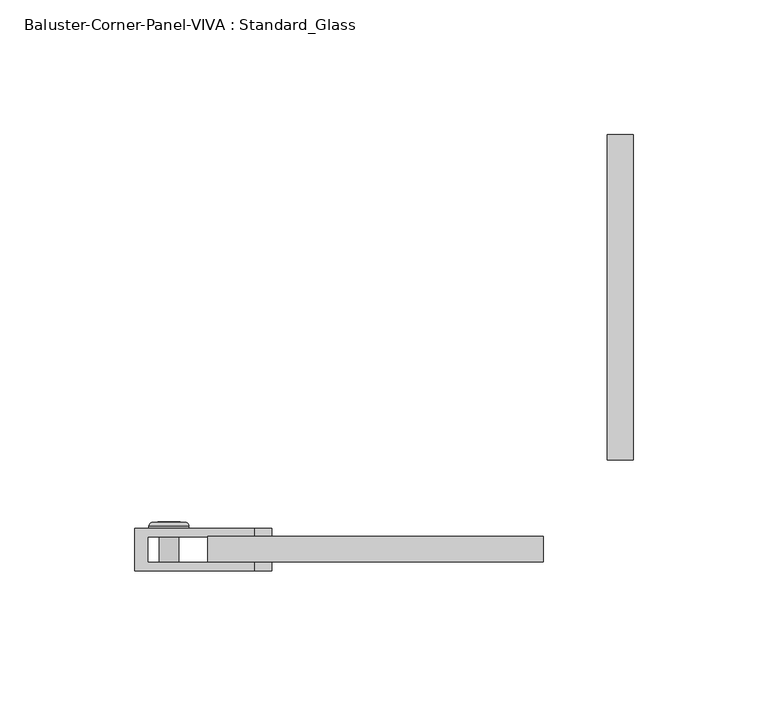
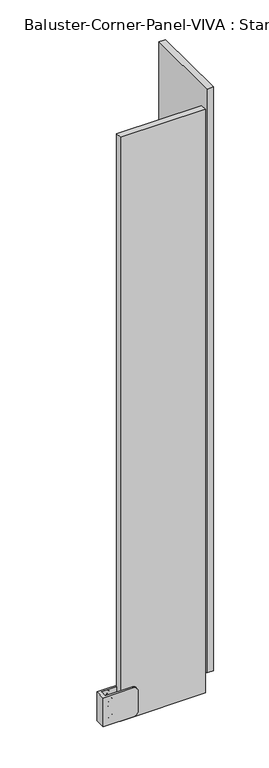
"""IFC4 building model written with IfcOpenShell, lengths in millimetres: railing geometry, Baluster-Corner-Panel-VIVA : Standard_Glass."""

import ifcopenshell
import ifcopenshell.guid

model = None  # the IFC model being written
_history = None  # IfcOwnerHistory: only IFC2X3 demands one
_inside = {}  # id of a spatial element -> (the spatial element, [elements in it])
_under = {}  # id of a project, library or spatial element -> (it, [spatial elements below it])
_declared = {}  # id of a project -> (the project, [libraries it declares])
_typed = {}  # id of a type object -> (the type object, [elements of that type])
_made_of = {}  # id of a material, layer set ... -> (it, [elements and type objects made of it])


def new_model(schema):
    """Start an empty IFC model of exactly this schema.

    Asked for "IFC4X3", IfcOpenShell would pick the latest addendum, in which some entities
    have other attributes; the version numbers below select the first issue.
    IFC2X3 requires an IfcOwnerHistory on every rooted entity: one is made here for all.
    """
    global model, _history
    if schema == "IFC4X3":
        model = ifcopenshell.file(schema_version=(4, 3, 0, 0))
    else:
        model = ifcopenshell.file(schema=schema)
    _inside.clear()
    _under.clear()
    _declared.clear()
    _typed.clear()
    _made_of.clear()
    _history = None
    if model.schema == "IFC2X3":
        org = make("IfcOrganization", Name="unknown")
        user = make(
            "IfcPersonAndOrganization",
            ThePerson=make("IfcPerson", FamilyName="unknown"),
            TheOrganization=org,
        )
        app = make(
            "IfcApplication",
            ApplicationDeveloper=org,
            Version="unknown",
            ApplicationFullName="unknown",
            ApplicationIdentifier="unknown",
        )
        _history = make(
            "IfcOwnerHistory",
            OwningUser=user,
            OwningApplication=app,
            ChangeAction="ADDED",
            CreationDate=0,
        )
    return model


def make(cls, **values):
    """One entity of the class cls with the attributes given. An attribute that is None is left unset."""
    return model.create_entity(
        cls, **{name: value for name, value in values.items() if value is not None}
    )


def rooted(cls, **values):
    """An entity with a GlobalId (a new one), such as an element, a storey or a relation."""
    return make(cls, GlobalId=ifcopenshell.guid.new(), OwnerHistory=_history, **values)


def si_unit(unit_type, name, prefix=None):
    """IfcSIUnit, for example si_unit("LENGTHUNIT", "METRE", prefix="MILLI")."""
    return make("IfcSIUnit", UnitType=unit_type, Prefix=prefix, Name=name)


def assignment(units):
    """IfcUnitAssignment: the units of a project."""
    return None if units is None else make("IfcUnitAssignment", Units=units)


def point(xyz):
    """IfcCartesianPoint."""
    return None if xyz is None else make("IfcCartesianPoint", Coordinates=xyz)


def direction(xyz):
    """IfcDirection."""
    return None if xyz is None else make("IfcDirection", DirectionRatios=xyz)


def frame(location, z_axis=None, x_axis=None):
    """IfcAxis2Placement3D, a coordinate frame: its origin and axes. An axis left out is left unset."""
    return make(
        "IfcAxis2Placement3D",
        Location=point(location),
        Axis=direction(z_axis),
        RefDirection=direction(x_axis),
    )


def origin():
    """The frame at (0, 0, 0) with its axes left unset."""
    return frame((0.0, 0.0, 0.0))


def place(relative_to, where):
    """IfcLocalPlacement: puts the frame where relative to a parent placement (None: the world)."""
    return make(
        "IfcLocalPlacement", PlacementRelTo=relative_to, RelativePlacement=where
    )


def context(
    kind, dimensions, precision=None, world=None, true_north=None, identifier=None
):
    """IfcGeometricRepresentationContext, for example the 3D "Model" context."""
    return make(
        "IfcGeometricRepresentationContext",
        ContextIdentifier=identifier,
        ContextType=kind,
        CoordinateSpaceDimension=dimensions,
        Precision=precision,
        WorldCoordinateSystem=world,
        TrueNorth=true_north,
    )


def project(units=None, contexts=None):
    """IfcProject with its units and contexts."""
    return rooted(
        "IfcProject",
        Name="project",
        RepresentationContexts=contexts,
        UnitsInContext=assignment(units),
    )


def spatial(cls, under=None, at=None, **own):
    """A site, building, storey or space (cls), placed at a placement, below another one or the project."""
    s = rooted(cls, ObjectPlacement=at, **own)
    if under is not None:
        _under.setdefault(under.id(), (under, []))[1].append(s)
    return s


def polyline(points):
    """IfcPolyline through the points."""
    return make("IfcPolyline", Points=[point(p) for p in points])


def circle_curve(where, radius):
    """IfcCircle in the frame where."""
    return make("IfcCircle", Position=where, Radius=radius)


def ellipse_curve(where, semi_axis1, semi_axis2):
    """IfcEllipse in the frame where."""
    return make(
        "IfcEllipse", Position=where, SemiAxis1=semi_axis1, SemiAxis2=semi_axis2
    )


def trimmed(basis, trim1, trim2, sense, master):
    """IfcTrimmedCurve: the piece of a basis curve between two trims."""
    return make(
        "IfcTrimmedCurve",
        BasisCurve=basis,
        Trim1=trim1,
        Trim2=trim2,
        SenseAgreement=sense,
        MasterRepresentation=master,
    )


def outline(outer, holes=None, kind="AREA"):
    """IfcArbitraryClosedProfileDef: a profile drawn as a closed curve; with holes, ...WithVoids."""
    if holes is None:
        return make("IfcArbitraryClosedProfileDef", ProfileType=kind, OuterCurve=outer)
    return make(
        "IfcArbitraryProfileDefWithVoids",
        ProfileType=kind,
        OuterCurve=outer,
        InnerCurves=holes,
    )


def extrude(swept, where, along, depth):
    """IfcExtrudedAreaSolid: the profile swept, set in the frame where, extruded along a direction by depth."""
    return make(
        "IfcExtrudedAreaSolid",
        SweptArea=swept,
        Position=where,
        ExtrudedDirection=direction(along),
        Depth=depth,
    )


def shape(context_of_items, identifier, shape_type, items):
    """IfcShapeRepresentation: the items that make up one representation, for example the "Body"."""
    return make(
        "IfcShapeRepresentation",
        ContextOfItems=context_of_items,
        RepresentationIdentifier=identifier,
        RepresentationType=shape_type,
        Items=items,
    )


def source(mapping_origin, context_of_items, identifier, shape_type, items):
    """IfcRepresentationMap: a shape defined once, which mapped items show again and again."""
    return make(
        "IfcRepresentationMap",
        MappingOrigin=mapping_origin,
        MappedRepresentation=shape(context_of_items, identifier, shape_type, items),
    )


def transform(
    local_origin,
    x_axis=None,
    y_axis=None,
    z_axis=None,
    scale=None,
    scale2=None,
    scale3=None,
    uniform=True,
):
    """IfcCartesianTransformationOperator3D, or its non-uniform kind. x_axis, y_axis, z_axis: its Axis1, 2, 3."""
    if uniform:
        return make(
            "IfcCartesianTransformationOperator3D",
            Axis1=direction(x_axis),
            Axis2=direction(y_axis),
            LocalOrigin=point(local_origin),
            Scale=scale,
            Axis3=direction(z_axis),
        )
    return make(
        "IfcCartesianTransformationOperator3DnonUniform",
        Axis1=direction(x_axis),
        Axis2=direction(y_axis),
        LocalOrigin=point(local_origin),
        Scale=scale,
        Axis3=direction(z_axis),
        Scale2=scale2,
        Scale3=scale3,
    )


def mapped(mapping_source, mapping_target):
    """IfcMappedItem: shows the shape of a source again, moved by a transform."""
    return make(
        "IfcMappedItem", MappingSource=mapping_source, MappingTarget=mapping_target
    )


def made_of(thing, what):
    """Note that an element or type object is made of a material, layer set ...; save() writes the relation."""
    if what is not None:
        _made_of.setdefault(what.id(), (what, []))[1].append(thing)
    return thing


def element(
    cls,
    number,
    at=None,
    inside=None,
    cuts=None,
    type_object=None,
    material=None,
    context=None,
    identifier="Body",
    shape_type=None,
    held_by="IfcProductDefinitionShape",
    body=None,
    shapes=None,
    **own,
):
    """One element of the class cls, such as IfcWall. Its Tag is "e" and its number.

    at: its placement. inside: the storey or other place that contains it. cuts: it is an
    opening in that element (IfcRelVoidsElement). A single representation is given by context,
    identifier, shape_type and body (its items); several are given by shapes. held_by: the class
    of the entity that holds the representations. save() writes the other relations.
    """
    e = rooted(cls, Tag="e%d" % number, ObjectPlacement=at, **own)
    if body is not None:
        shapes = [shape(context, identifier, shape_type, body)]
    if shapes is not None:
        e.Representation = make(held_by, Representations=shapes)
    if inside is not None:
        _inside.setdefault(inside.id(), (inside, []))[1].append(e)
    if cuts is not None:
        rooted(
            "IfcRelVoidsElement", RelatingBuildingElement=cuts, RelatedOpeningElement=e
        )
    if type_object is not None:
        _typed.setdefault(type_object.id(), (type_object, []))[1].append(e)
    return made_of(e, material)


def aggregate(whole, parts):
    """IfcRelAggregates: a whole, such as a stair, and the parts it consists of."""
    return rooted("IfcRelAggregates", RelatingObject=whole, RelatedObjects=parts)


def save(model, path):
    """Write the relations noted so far, then the file.

    IfcRelAggregates (storeys below a building ...), IfcRelContainedInSpatialStructure (elements
    in a storey), IfcRelDefinesByType, IfcRelAssociatesMaterial and IfcRelDeclares: one each for
    every whole, place, type object, material and project.
    """
    for whole, parts in _under.values():
        aggregate(whole, parts)
    for where, things in _inside.values():
        rooted(
            "IfcRelContainedInSpatialStructure",
            RelatedElements=things,
            RelatingStructure=where,
        )
    for kind, things in _typed.values():
        rooted("IfcRelDefinesByType", RelatedObjects=things, RelatingType=kind)
    for what, things in _made_of.values():
        rooted("IfcRelAssociatesMaterial", RelatedObjects=things, RelatingMaterial=what)
    for by, libraries in _declared.values():
        rooted("IfcRelDeclares", RelatingContext=by, RelatedDefinitions=libraries)
    model.write(path)


def plane_surface(at):
    """IfcPlane: the flat surface through the origin of the frame at, square to its z axis."""
    return make("IfcPlane", Position=at)


def cylinder_surface(at, radius):
    """IfcCylindricalSurface: all points at the distance radius from the z axis of the frame at."""
    return make("IfcCylindricalSurface", Position=at, Radius=radius)


def revolved_surface(curve, axis_point, axis_direction):
    """IfcSurfaceOfRevolution: the curve turned about the line through axis_point along axis_direction."""
    return make(
        "IfcSurfaceOfRevolution",
        SweptCurve=make("IfcArbitraryOpenProfileDef", ProfileType="CURVE", Curve=curve),
        AxisPosition=make("IfcAxis1Placement", Location=point(axis_point), Axis=direction(axis_direction)),
    )


def advanced_brep(points, edges, surfaces, faces):
    """IfcAdvancedBrep: a solid bounded by faces that lie on surfaces and meet in shared edges.

    An edge is (start, end): straight between two places in points (the first is 0);
    or (start, end, curve); or (start, end, curve, False) where it runs against its curve.
    A face is (place in surfaces, loops), or (place, loops, False) where it looks against
    its surface's normal. A loop lists edges by number (the first is 1), with a minus sign
    where the edge is run from its end to its start. The first loop is the outer one.
    """
    corners = [point(p) for p in points]
    vertices = [make("IfcVertexPoint", VertexGeometry=c) for c in corners]
    made = []
    for start, end, *more in edges:
        made.append(
            make(
                "IfcEdgeCurve",
                EdgeStart=vertices[start],
                EdgeEnd=vertices[end],
                EdgeGeometry=more[0] if more else make("IfcPolyline", Points=[corners[start], corners[end]]),
                SameSense=more[1] if len(more) > 1 else True,
            )
        )
    hull = []
    for where, loops, *sense in faces:
        bounds = []
        for j, loop in enumerate(loops):
            ring = [make("IfcOrientedEdge", EdgeElement=made[abs(k) - 1], Orientation=k > 0) for k in loop]
            bounds.append(
                make(
                    "IfcFaceOuterBound" if j == 0 else "IfcFaceBound",
                    Bound=make("IfcEdgeLoop", EdgeList=ring),
                    Orientation=True,
                )
            )
        hull.append(make("IfcAdvancedFace", Bounds=bounds, FaceSurface=surfaces[where], SameSense=sense[0] if sense else True))
    return make("IfcAdvancedBrep", Outer=make("IfcClosedShell", CfsFaces=hull))


def baluster_corner_panel_viva_standard_glass_8a52e0d9(model_context):
    return source(origin(), model_context, "Body", "SolidModel", [
        advanced_brep(
        [(-138.7995722, -36.7665, 138.7358896), (-138.7995722, -24.0665, 138.7358896), (-131.7086804, -24.0665, 138.7358896), (-131.7086804, -36.7665, 138.7358896), (-142.6619153, -24.0665, 138.7358896), (-127.8463372, -24.0665, 138.7358896), (-136.9102016, -23.199388, 138.7358896), (-136.9102016, -36.7665, 138.7358896), (-133.5980509, -36.7665, 138.7358896), (-133.5980509, -23.199388, 138.7358896), (-142.6619153, -23.2316551, 138.7358896), (-141.3806433, -21.9503831, 138.7358896), (-129.1276092, -21.9503831, 138.7358896), (-127.8463372, -23.2316551, 138.7358896), (-139.5527218, -21.9503831, 138.7358896), (-130.9555307, -21.9503831, 138.7358896), (-139.5527218, -23.199388, 138.7358896), (-130.9555307, -23.199388, 138.7358896)],
        [
            (0, 1),
            (1, 2, circle_curve(frame((-135.2541263, -24.0665, 138.7358896), z_axis=(0.0, -1.0, 0.0), x_axis=(1.0, 0.0, 0.0)), 3.5454459)),
            (2, 3),
            (3, 0, circle_curve(frame((-135.2541263, -36.7665, 138.7358896), z_axis=(0.0, 1.0, 0.0), x_axis=(1.0, 0.0, 0.0)), 3.5454459)),
            (2, 1, circle_curve(frame((-135.2541263, -24.0665, 138.7358896), z_axis=(0.0, -1.0, 0.0), x_axis=(1.0, 0.0, 0.0)), 3.5454459)),
            (0, 3, circle_curve(frame((-135.2541263, -36.7665, 138.7358896), z_axis=(0.0, 1.0, 0.0), x_axis=(1.0, 0.0, 0.0)), 3.5454459)),
            (1, 4),
            (4, 5, circle_curve(frame((-135.2541263, -24.0665, 138.7358896), z_axis=(0.0, -1.0, 0.0), x_axis=(1.0, 0.0, 0.0)), 7.4077891)),
            (5, 2),
            (5, 4, circle_curve(frame((-135.2541263, -24.0665, 138.7358896), z_axis=(0.0, -1.0, 0.0), x_axis=(1.0, 0.0, 0.0)), 7.4077891)),
            (6, 7),
            (7, 8, circle_curve(frame((-135.2541263, -36.7665, 138.7358896), z_axis=(0.0, -1.0, 0.0), x_axis=(1.0, 0.0, 0.0)), 1.6560754)),
            (8, 9),
            (9, 6, circle_curve(frame((-135.2541263, -23.199388, 138.7358896), z_axis=(0.0, 1.0, 0.0), x_axis=(1.0, 0.0, 0.0)), 1.6560754)),
            (8, 7, circle_curve(frame((-135.2541263, -36.7665, 138.7358896), z_axis=(0.0, -1.0, 0.0), x_axis=(1.0, 0.0, 0.0)), 1.6560754)),
            (6, 9, circle_curve(frame((-135.2541263, -23.199388, 138.7358896), z_axis=(0.0, 1.0, 0.0), x_axis=(1.0, 0.0, 0.0)), 1.6560754)),
            (10, 11, circle_curve(frame((-141.3806433, -23.2316551, 138.7358896), z_axis=(0.0, 0.0, -1.0), x_axis=(-1.0, 0.0, 0.0)), 1.281272)),
            (11, 12, circle_curve(frame((-135.2541263, -21.9503831, 138.7358896), z_axis=(0.0, -1.0, 0.0), x_axis=(1.0, 0.0, 0.0)), 6.1265171)),
            (12, 13, circle_curve(frame((-129.1276092, -23.2316551, 138.7358896), z_axis=(0.0, 0.0, -1.0), x_axis=(1.0, 0.0, 0.0)), 1.281272)),
            (13, 10, circle_curve(frame((-135.2541263, -23.2316551, 138.7358896), z_axis=(0.0, 1.0, 0.0), x_axis=(1.0, 0.0, 0.0)), 7.4077891)),
            (12, 11, circle_curve(frame((-135.2541263, -21.9503831, 138.7358896), z_axis=(0.0, -1.0, 0.0), x_axis=(1.0, 0.0, 0.0)), 6.1265171)),
            (10, 13, circle_curve(frame((-135.2541263, -23.2316551, 138.7358896), z_axis=(0.0, 1.0, 0.0), x_axis=(1.0, 0.0, 0.0)), 7.4077891)),
            (11, 14),
            (14, 15, circle_curve(frame((-135.2541263, -21.9503831, 138.7358896), z_axis=(0.0, -1.0, 0.0), x_axis=(1.0, 0.0, 0.0)), 4.2985955)),
            (15, 12),
            (15, 14, circle_curve(frame((-135.2541263, -21.9503831, 138.7358896), z_axis=(0.0, -1.0, 0.0), x_axis=(1.0, 0.0, 0.0)), 4.2985955)),
            (4, 10),
            (13, 5),
            (7, 0),
            (3, 8),
            (14, 16),
            (16, 17, circle_curve(frame((-135.2541263, -23.199388, 138.7358896), z_axis=(0.0, -1.0, 0.0), x_axis=(1.0, 0.0, 0.0)), 4.2985955)),
            (17, 15),
            (17, 16, circle_curve(frame((-135.2541263, -23.199388, 138.7358896), z_axis=(0.0, -1.0, 0.0), x_axis=(1.0, 0.0, 0.0)), 4.2985955)),
            (16, 6),
            (9, 17),
        ],
        [
            cylinder_surface(frame((-135.2541263, -27.5632331, 138.7358896), z_axis=(0.0, -1.0, 0.0), x_axis=(1.0, 0.0, 0.0)), 3.5454459),
            plane_surface(frame((-135.2541263, -24.0665, 138.7358896), z_axis=(0.0, -1.0, 0.0), x_axis=(1.0, 0.0, 0.0))),
            revolved_surface(polyline([(-133.5980509, -36.7665, 138.7358896), (-133.5980509, -23.199388, 138.7358896)]), (-135.2541263, -27.5632331, 138.7358896), (0.0, -1.0, 0.0)),
            revolved_surface(trimmed(ellipse_curve(frame((-129.1276092, -23.2316551, 138.7358896), z_axis=(0.0, 0.0, -1.0), x_axis=(1.0, 0.0, 0.0)), 1.281272, 1.281272), [point((-129.1276092, -21.9503831, 138.7358896))], [point((-127.8463372, -23.2316551, 138.7358896))], True, "CARTESIAN"), (-135.2541263, -27.5632331, 138.7358896), (0.0, -1.0, 0.0)),
            plane_surface(frame((-135.2541263, -21.9503831, 138.7358896), z_axis=(0.0, 1.0, 0.0), x_axis=(1.0, 0.0, 0.0))),
            cylinder_surface(frame((-135.2541263, -27.5632331, 138.7358896), z_axis=(0.0, -1.0, 0.0), x_axis=(1.0, 0.0, 0.0)), 7.4077891),
            plane_surface(frame((-135.2541263, -36.7665, 138.7358896), z_axis=(0.0, -1.0, 0.0), x_axis=(1.0, 0.0, 0.0))),
            revolved_surface(polyline([(-130.9555308, -23.199388, 138.7358896), (-130.9555308, -21.9503831, 138.7358896)]), (-135.2541263, -27.5632331, 138.7358896), (0.0, -1.0, 0.0)),
            plane_surface(frame((-135.2541263, -23.199388, 138.7358896), z_axis=(0.0, 1.0, 0.0), x_axis=(1.0, 0.0, 0.0))),
        ],
        [
            (0, [[1, 2, 3, 4]]),
            (0, [[-3, 5, -1, 6]]),
            (1, [[7, 8, 9, -2]]),
            (1, [[-9, 10, -7, -5]]),
            (2, [[11, 12, 13, 14]]),
            (2, [[-13, 15, -11, 16]]),
            (3, [[17, 18, 19, 20]]),
            (3, [[-19, 21, -17, 22]]),
            (4, [[23, 24, 25, -18]]),
            (4, [[-25, 26, -23, -21]]),
            (5, [[27, -20, 28, -8]]),
            (5, [[-28, -22, -27, -10]]),
            (6, [[29, -4, 30, -12]]),
            (6, [[-30, -6, -29, -15]]),
            (7, [[31, 32, 33, -24]]),
            (7, [[-33, 34, -31, -26]]),
            (8, [[35, -14, 36, -32]]),
            (8, [[-36, -16, -35, -34]]),
        ],
    ),
        advanced_brep(
        [(-138.7995722, -36.7665, 114.1296396), (-138.7995722, -24.0665, 114.1296396), (-131.7086804, -24.0665, 114.1296396), (-131.7086804, -36.7665, 114.1296396), (-142.6619153, -24.0665, 114.1296396), (-127.8463372, -24.0665, 114.1296396), (-136.9102016, -23.199388, 114.1296396), (-136.9102016, -36.7665, 114.1296396), (-133.5980509, -36.7665, 114.1296396), (-133.5980509, -23.199388, 114.1296396), (-142.6619153, -23.2316551, 114.1296396), (-141.3806433, -21.9503831, 114.1296396), (-129.1276092, -21.9503831, 114.1296396), (-127.8463372, -23.2316551, 114.1296396), (-139.5527218, -21.9503831, 114.1296396), (-130.9555307, -21.9503831, 114.1296396), (-139.5527218, -23.199388, 114.1296396), (-130.9555307, -23.199388, 114.1296396)],
        [
            (0, 1),
            (1, 2, circle_curve(frame((-135.2541263, -24.0665, 114.1296396), z_axis=(0.0, -1.0, 0.0), x_axis=(1.0, 0.0, 0.0)), 3.5454459)),
            (2, 3),
            (3, 0, circle_curve(frame((-135.2541263, -36.7665, 114.1296396), z_axis=(0.0, 1.0, 0.0), x_axis=(1.0, 0.0, 0.0)), 3.5454459)),
            (2, 1, circle_curve(frame((-135.2541263, -24.0665, 114.1296396), z_axis=(0.0, -1.0, 0.0), x_axis=(1.0, 0.0, 0.0)), 3.5454459)),
            (0, 3, circle_curve(frame((-135.2541263, -36.7665, 114.1296396), z_axis=(0.0, 1.0, 0.0), x_axis=(1.0, 0.0, 0.0)), 3.5454459)),
            (1, 4),
            (4, 5, circle_curve(frame((-135.2541263, -24.0665, 114.1296396), z_axis=(0.0, -1.0, 0.0), x_axis=(1.0, 0.0, 0.0)), 7.4077891)),
            (5, 2),
            (5, 4, circle_curve(frame((-135.2541263, -24.0665, 114.1296396), z_axis=(0.0, -1.0, 0.0), x_axis=(1.0, 0.0, 0.0)), 7.4077891)),
            (6, 7),
            (7, 8, circle_curve(frame((-135.2541263, -36.7665, 114.1296396), z_axis=(0.0, -1.0, 0.0), x_axis=(1.0, 0.0, 0.0)), 1.6560754)),
            (8, 9),
            (9, 6, circle_curve(frame((-135.2541263, -23.199388, 114.1296396), z_axis=(0.0, 1.0, 0.0), x_axis=(1.0, 0.0, 0.0)), 1.6560754)),
            (8, 7, circle_curve(frame((-135.2541263, -36.7665, 114.1296396), z_axis=(0.0, -1.0, 0.0), x_axis=(1.0, 0.0, 0.0)), 1.6560754)),
            (6, 9, circle_curve(frame((-135.2541263, -23.199388, 114.1296396), z_axis=(0.0, 1.0, 0.0), x_axis=(1.0, 0.0, 0.0)), 1.6560754)),
            (10, 11, circle_curve(frame((-141.3806433, -23.2316551, 114.1296396), z_axis=(0.0, 0.0, -1.0), x_axis=(-1.0, 0.0, 0.0)), 1.281272)),
            (11, 12, circle_curve(frame((-135.2541263, -21.9503831, 114.1296396), z_axis=(0.0, -1.0, 0.0), x_axis=(1.0, 0.0, 0.0)), 6.1265171)),
            (12, 13, circle_curve(frame((-129.1276092, -23.2316551, 114.1296396), z_axis=(0.0, 0.0, -1.0), x_axis=(1.0, 0.0, 0.0)), 1.281272)),
            (13, 10, circle_curve(frame((-135.2541263, -23.2316551, 114.1296396), z_axis=(0.0, 1.0, 0.0), x_axis=(1.0, 0.0, 0.0)), 7.4077891)),
            (12, 11, circle_curve(frame((-135.2541263, -21.9503831, 114.1296396), z_axis=(0.0, -1.0, 0.0), x_axis=(1.0, 0.0, 0.0)), 6.1265171)),
            (10, 13, circle_curve(frame((-135.2541263, -23.2316551, 114.1296396), z_axis=(0.0, 1.0, 0.0), x_axis=(1.0, 0.0, 0.0)), 7.4077891)),
            (11, 14),
            (14, 15, circle_curve(frame((-135.2541263, -21.9503831, 114.1296396), z_axis=(0.0, -1.0, 0.0), x_axis=(1.0, 0.0, 0.0)), 4.2985955)),
            (15, 12),
            (15, 14, circle_curve(frame((-135.2541263, -21.9503831, 114.1296396), z_axis=(0.0, -1.0, 0.0), x_axis=(1.0, 0.0, 0.0)), 4.2985955)),
            (7, 0),
            (3, 8),
            (4, 10),
            (13, 5),
            (14, 16),
            (16, 17, circle_curve(frame((-135.2541263, -23.199388, 114.1296396), z_axis=(0.0, -1.0, 0.0), x_axis=(1.0, 0.0, 0.0)), 4.2985955)),
            (17, 15),
            (17, 16, circle_curve(frame((-135.2541263, -23.199388, 114.1296396), z_axis=(0.0, -1.0, 0.0), x_axis=(1.0, 0.0, 0.0)), 4.2985955)),
            (16, 6),
            (9, 17),
        ],
        [
            cylinder_surface(frame((-135.2541263, -27.5632331, 114.1296396), z_axis=(0.0, -1.0, 0.0), x_axis=(1.0, 0.0, 0.0)), 3.5454459),
            plane_surface(frame((-135.2541263, -24.0665, 114.1296396), z_axis=(0.0, -1.0, 0.0), x_axis=(1.0, 0.0, 0.0))),
            revolved_surface(polyline([(-133.5980509, -36.7665, 114.1296396), (-133.5980509, -23.199388, 114.1296396)]), (-135.2541263, -27.5632331, 114.1296396), (0.0, -1.0, 0.0)),
            revolved_surface(trimmed(ellipse_curve(frame((-129.1276092, -23.2316551, 114.1296396), z_axis=(0.0, 0.0, -1.0), x_axis=(1.0, 0.0, 0.0)), 1.281272, 1.281272), [point((-129.1276092, -21.9503831, 114.1296396))], [point((-127.8463372, -23.2316551, 114.1296396))], True, "CARTESIAN"), (-135.2541263, -27.5632331, 114.1296396), (0.0, -1.0, 0.0)),
            plane_surface(frame((-135.2541263, -21.9503831, 114.1296396), z_axis=(0.0, 1.0, 0.0), x_axis=(1.0, 0.0, 0.0))),
            plane_surface(frame((-135.2541263, -36.7665, 114.1296396), z_axis=(0.0, -1.0, 0.0), x_axis=(1.0, 0.0, 0.0))),
            cylinder_surface(frame((-135.2541263, -27.5632331, 114.1296396), z_axis=(0.0, -1.0, 0.0), x_axis=(1.0, 0.0, 0.0)), 7.4077891),
            revolved_surface(polyline([(-130.9555308, -23.199388, 114.1296396), (-130.9555308, -21.9503831, 114.1296396)]), (-135.2541263, -27.5632331, 114.1296396), (0.0, -1.0, 0.0)),
            plane_surface(frame((-135.2541263, -23.199388, 114.1296396), z_axis=(0.0, 1.0, 0.0), x_axis=(1.0, 0.0, 0.0))),
        ],
        [
            (0, [[1, 2, 3, 4]]),
            (0, [[-3, 5, -1, 6]]),
            (1, [[7, 8, 9, -2]]),
            (1, [[-9, 10, -7, -5]]),
            (2, [[11, 12, 13, 14]]),
            (2, [[-13, 15, -11, 16]]),
            (3, [[17, 18, 19, 20]]),
            (3, [[-19, 21, -17, 22]]),
            (4, [[23, 24, 25, -18]]),
            (4, [[-25, 26, -23, -21]]),
            (5, [[27, -4, 28, -12]]),
            (5, [[-28, -6, -27, -15]]),
            (6, [[29, -20, 30, -8]]),
            (6, [[-30, -22, -29, -10]]),
            (7, [[31, 32, 33, -24]]),
            (7, [[-33, 34, -31, -26]]),
            (8, [[35, -14, 36, -32]]),
            (8, [[-36, -16, -35, -34]]),
        ],
    ),
        extrude(outline(polyline([(114.1296396, -139.3480546), (110.5841937, -137.3010904), (110.5841937, -133.2071621), (114.1296396, -131.160198), (117.6750855, -133.2071621), (117.6750855, -137.3010904), (114.1296396, -139.3480546)])), frame((0.0, -23.199388, 0.0), z_axis=(0.0, 1.0, 0.0), x_axis=(0.0, 0.0, 1.0)), (0.0, 0.0, 1.0), 1.4969696),
        advanced_brep(
        [(-147.887471, -24.0665, 148.6577646), (-103.437471, -24.0665, 148.6577646), (-97.087471, -24.0665, 142.3077646), (-97.087471, -24.0665, 110.5577646), (-103.437471, -24.0665, 104.2077646), (-147.887471, -24.0665, 104.2077646), (-147.887471, -39.9415, 148.6577646), (-147.887471, -39.9415, 104.2077646), (-103.437471, -39.9415, 104.2077646), (-97.087471, -39.9415, 110.5577646), (-97.087471, -39.9415, 142.3077646), (-103.437471, -39.9415, 148.6577646), (-103.437471, -27.2415, 104.2077646), (-143.1693906, -27.2415, 104.2077646), (-143.1693906, -36.7665, 104.2077646), (-103.437471, -36.7665, 104.2077646), (-143.1693906, -27.2415, 148.6577646), (-143.1693906, -36.7665, 148.6577646), (-97.087471, -27.2415, 110.5577646), (-97.087471, -27.2415, 142.3077646), (-103.437471, -27.2415, 148.6577646), (-103.437471, -36.7665, 148.6577646), (-97.087471, -36.7665, 142.3077646), (-97.087471, -36.7665, 110.5577646)],
        [
            (0, 1),
            (1, 2, circle_curve(frame((-103.437471, -24.0665, 142.3077646), z_axis=(0.0, 1.0, 0.0), x_axis=(1.0, 0.0, 0.0)), 6.35)),
            (2, 3),
            (3, 4, circle_curve(frame((-103.437471, -24.0665, 110.5577646), z_axis=(0.0, 1.0, 0.0), x_axis=(1.0, 0.0, 0.0)), 6.35)),
            (4, 5),
            (5, 0),
            (6, 7),
            (7, 8),
            (8, 9, circle_curve(frame((-103.437471, -39.9415, 110.5577646), z_axis=(0.0, -1.0, 0.0), x_axis=(1.0, 0.0, 0.0)), 6.35)),
            (9, 10),
            (10, 11, circle_curve(frame((-103.437471, -39.9415, 142.3077646), z_axis=(0.0, -1.0, 0.0), x_axis=(1.0, 0.0, 0.0)), 6.35)),
            (11, 6),
            (5, 7),
            (6, 0),
            (4, 12),
            (12, 13),
            (13, 14),
            (14, 15),
            (15, 8),
            (13, 16),
            (16, 17),
            (17, 14),
            (12, 18, circle_curve(frame((-103.437471, -27.2415, 110.5577646), z_axis=(0.0, -1.0, 0.0), x_axis=(1.0, 0.0, 0.0)), 6.35)),
            (18, 19),
            (19, 20, circle_curve(frame((-103.437471, -27.2415, 142.3077646), z_axis=(0.0, -1.0, 0.0), x_axis=(1.0, 0.0, 0.0)), 6.35)),
            (20, 16),
            (17, 21),
            (21, 22, circle_curve(frame((-103.437471, -36.7665, 142.3077646), z_axis=(0.0, 1.0, 0.0), x_axis=(1.0, 0.0, 0.0)), 6.35)),
            (22, 23),
            (23, 15, circle_curve(frame((-103.437471, -36.7665, 110.5577646), z_axis=(0.0, 1.0, 0.0), x_axis=(1.0, 0.0, 0.0)), 6.35)),
            (23, 9),
            (3, 18),
            (22, 10),
            (2, 19),
            (21, 11),
            (1, 20),
        ],
        [
            plane_surface(frame((-147.887471, -24.0665, 104.2077646), z_axis=(0.0, 1.0, 0.0), x_axis=(0.0, 0.0, -1.0))),
            plane_surface(frame((-147.887471, -39.9415, 104.2077646), z_axis=(0.0, -1.0, 0.0), x_axis=(0.0, 0.0, 1.0))),
            plane_surface(frame((-147.887471, -24.0665, 148.6577646), z_axis=(-1.0, 0.0, 0.0), x_axis=(0.0, -1.0, 0.0))),
            plane_surface(frame((-147.887471, -24.0665, 104.2077646), z_axis=(0.0, 0.0, -1.0), x_axis=(0.0, -1.0, 0.0))),
            plane_surface(frame((-143.1693906, -36.7665, 161.3577646), z_axis=(1.0, 0.0, 0.0), x_axis=(0.0, 0.0, -1.0))),
            plane_surface(frame((-143.1693906, -27.2415, 161.3577646), z_axis=(0.0, -1.0, 0.0), x_axis=(0.0, 0.0, -1.0))),
            plane_surface(frame((-84.387471, -36.7665, 161.3577646), z_axis=(0.0, 1.0, 0.0), x_axis=(0.0, 0.0, -1.0))),
            cylinder_surface(frame((-103.437471, -39.9415, 110.5577646), z_axis=(0.0, 1.0, 0.0), x_axis=(1.0, 0.0, 0.0)), 6.35),
            plane_surface(frame((-97.087471, -24.0665, 110.5577646), z_axis=(1.0, 0.0, 0.0), x_axis=(0.0, -1.0, 0.0))),
            cylinder_surface(frame((-103.437471, -39.9415, 142.3077646), z_axis=(0.0, 1.0, 0.0), x_axis=(1.0, 0.0, 0.0)), 6.35),
            plane_surface(frame((-103.437471, -24.0665, 148.6577646), z_axis=(0.0, 0.0, 1.0), x_axis=(0.0, -1.0, 0.0))),
        ],
        [
            (0, [[1, 2, 3, 4, 5, 6]]),
            (1, [[7, 8, 9, 10, 11, 12]]),
            (2, [[13, -7, 14, -6]]),
            (3, [[15, 16, 17, 18, 19, -8, -13, -5]]),
            (4, [[-17, 20, 21, 22]]),
            (5, [[-16, 23, 24, 25, 26, -20]]),
            (6, [[27, 28, 29, 30, -18, -22]]),
            (7, [[-19, -30, 31, -9]]),
            (7, [[32, -23, -15, -4]]),
            (8, [[-31, -29, 33, -10]]),
            (8, [[34, -24, -32, -3]]),
            (9, [[-33, -28, 35, -11]]),
            (9, [[36, -25, -34, -2]]),
            (10, [[-14, -12, -35, -27, -21, -26, -36, -1]]),
        ],
    ),
        extrude(outline(polyline([(36.7665, 1.0851207), (27.2415, 1.0851207), (27.2415, 121.6964008), (36.7665, 121.6964008), (36.7665, 1.0851207)])), frame((0.0, 0.0, 101.6), z_axis=(0.0, 0.0, 1.0), x_axis=(1.0, 0.0, 0.0)), (0.0, 0.0, 1.0), 901.7),
        extrude(outline(polyline([(-120.9443906, -36.7665), (-120.9443906, -27.2415), (3.429, -27.2415), (3.429, -36.7665), (-120.9443906, -36.7665)])), frame((0.0, 0.0, 101.6), z_axis=(0.0, 0.0, 1.0), x_axis=(1.0, 0.0, 0.0)), (0.0, 0.0, 1.0), 901.7),
    ])


if __name__ == "__main__":
    model = new_model("IFC4")
    model_context = context("Model", 3, world=origin())
    ifc_project = project(units=[si_unit("LENGTHUNIT", "METRE", prefix="MILLI")], contexts=[model_context])
    site = spatial("IfcSite", under=ifc_project)
    building = spatial("IfcBuilding", under=site)
    placement = place(None, origin())
    baluster_corner_panel_viva_standard_glass_shape = baluster_corner_panel_viva_standard_glass_8a52e0d9(model_context)
    element("IfcRailing", 1, ObjectType="Baluster-Corner-Panel-VIVA : Standard_Glass", at=placement, inside=building, context=model_context, shape_type="MappedRepresentation", body=[
        mapped(baluster_corner_panel_viva_standard_glass_shape, transform((0.0, 0.0, 0.0), x_axis=(1.0, 0.0, 0.0), y_axis=(0.0, 1.0, 0.0), z_axis=(0.0, 0.0, 1.0))),
    ])
    save(model, "model.ifc")
